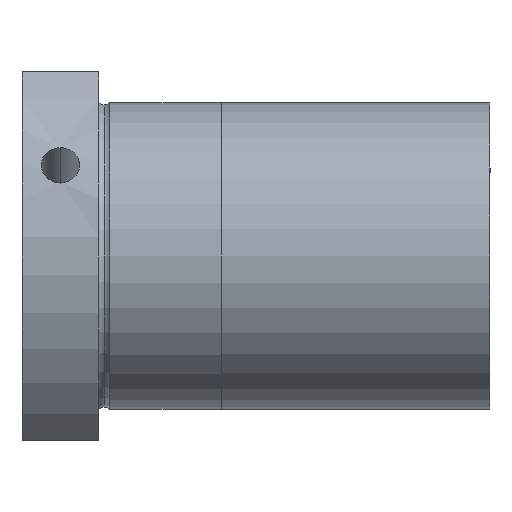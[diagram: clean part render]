
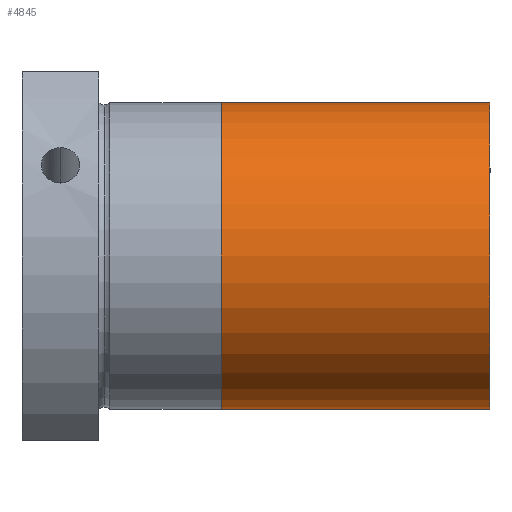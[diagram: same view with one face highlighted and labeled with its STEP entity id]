
A CAD part, front view. The second image highlights one B-rep face of the part: STEP entity #4845.
In plain terms, the highlighted cylindrical face has radius 19.95 mm (diameter 39.9 mm), a partial arc.
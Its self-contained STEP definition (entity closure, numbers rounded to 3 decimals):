
#120 = VERTEX_POINT ( 'NONE', #3178 ) ;
#263 = CARTESIAN_POINT ( 'NONE',  ( -100.792, 0., -19.95 ) ) ;
#381 = DIRECTION ( 'NONE',  ( -1., 0., 0. ) ) ;
#428 = AXIS2_PLACEMENT_3D ( 'NONE', #3420, #2978, #2020 ) ;
#715 = VERTEX_POINT ( 'NONE', #4982 ) ;
#738 = DIRECTION ( 'NONE',  ( -1., 0., 0. ) ) ;
#758 = CIRCLE ( 'NONE', #5431, 19.95 ) ;
#1150 = CARTESIAN_POINT ( 'NONE',  ( -100.792, 0., 19.95 ) ) ;
#1368 = ORIENTED_EDGE ( 'NONE', *, *, #4203, .F. ) ;
#2020 = DIRECTION ( 'NONE',  ( 0., 0., 1. ) ) ;
#2035 = VECTOR ( 'NONE', #3520, 1000. ) ;
#2262 = DIRECTION ( 'NONE',  ( -1., 0., 0. ) ) ;
#2317 = CYLINDRICAL_SURFACE ( 'NONE', #428, 19.95 ) ;
#2366 = CARTESIAN_POINT ( 'NONE',  ( 43.599, 0., 19.95 ) ) ;
#2448 = LINE ( 'NONE', #263, #6075 ) ;
#2710 = ORIENTED_EDGE ( 'NONE', *, *, #5016, .T. ) ;
#2730 = ORIENTED_EDGE ( 'NONE', *, *, #2787, .F. ) ;
#2787 = EDGE_CURVE ( 'NONE', #715, #120, #2448, .T. ) ;
#2833 = CIRCLE ( 'NONE', #5105, 19.95 ) ;
#2978 = DIRECTION ( 'NONE',  ( -1., 0., 0. ) ) ;
#3178 = CARTESIAN_POINT ( 'NONE',  ( 8.599, 0., -19.95 ) ) ;
#3215 = CARTESIAN_POINT ( 'NONE',  ( 8.599, 0., 0. ) ) ;
#3274 = LINE ( 'NONE', #1150, #2035 ) ;
#3420 = CARTESIAN_POINT ( 'NONE',  ( -100.792, 0., 0. ) ) ;
#3520 = DIRECTION ( 'NONE',  ( -1., 0., 0. ) ) ;
#3684 = DIRECTION ( 'NONE',  ( 0., 0., 1. ) ) ;
#3717 = FACE_OUTER_BOUND ( 'NONE', #5158, .T. ) ;
#4195 = EDGE_CURVE ( 'NONE', #715, #4555, #2833, .T. ) ;
#4203 = EDGE_CURVE ( 'NONE', #120, #4262, #758, .T. ) ;
#4262 = VERTEX_POINT ( 'NONE', #6054 ) ;
#4555 = VERTEX_POINT ( 'NONE', #2366 ) ;
#4845 = ADVANCED_FACE ( 'NONE', ( #3717 ), #2317, .T. ) ;
#4982 = CARTESIAN_POINT ( 'NONE',  ( 43.599, 0., -19.95 ) ) ;
#5016 = EDGE_CURVE ( 'NONE', #4555, #4262, #3274, .T. ) ;
#5093 = CARTESIAN_POINT ( 'NONE',  ( 43.599, 0., 0. ) ) ;
#5105 = AXIS2_PLACEMENT_3D ( 'NONE', #5093, #2262, #5575 ) ;
#5158 = EDGE_LOOP ( 'NONE', ( #2730, #5225, #2710, #1368 ) ) ;
#5225 = ORIENTED_EDGE ( 'NONE', *, *, #4195, .T. ) ;
#5431 = AXIS2_PLACEMENT_3D ( 'NONE', #3215, #381, #3684 ) ;
#5575 = DIRECTION ( 'NONE',  ( 0., 0., 1. ) ) ;
#6054 = CARTESIAN_POINT ( 'NONE',  ( 8.599, 0., 19.95 ) ) ;
#6075 = VECTOR ( 'NONE', #738, 1000. ) ;
